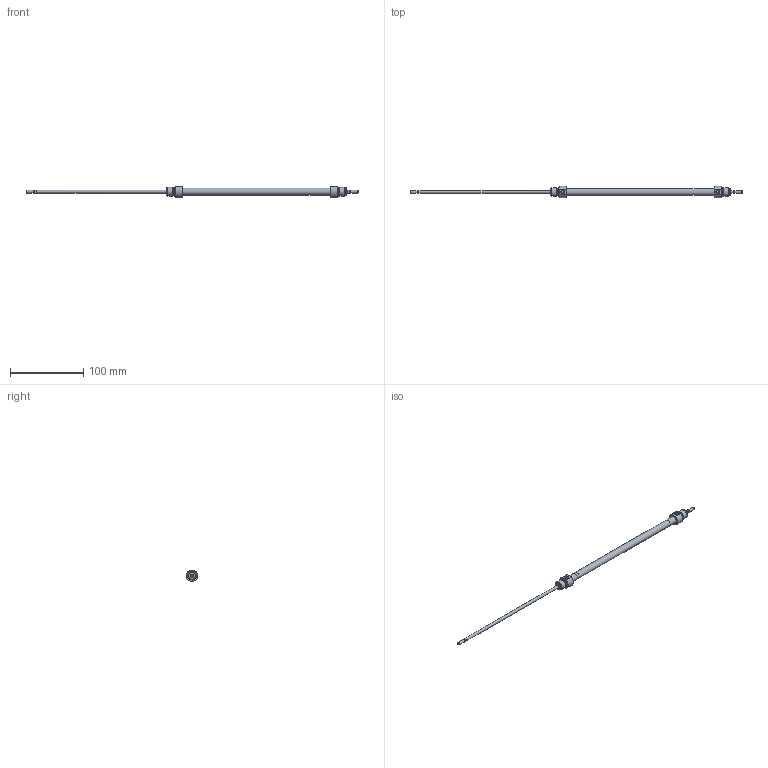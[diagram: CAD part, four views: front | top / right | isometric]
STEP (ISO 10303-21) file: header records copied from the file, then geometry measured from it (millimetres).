
FILE_DESCRIPTION( ( 'STEP AP203' ), '1' );
FILE_NAME( '//expscmdclustefs.cadenas.external/client_exchange/iodir/jobs/output/wkb68263016_no0/STEP/M101-08-0175--__0__2_03.stp', ' ', ( ' ' ), ( ' ' ), 'PSStep 15.0.47', 'PARTsolutions', ' ' );
FILE_SCHEMA( ( 'CONFIG_CONTROL_DESIGN' ) );
Length unit declared in the file: millimetre
Products named in the file (3): M101-08-0175-- [0]; HI_M101-08-0175---[0]-z; HI_M101-08-0175---[0]-k
Assembly tree (2 placements, depth 2):
  M101-08-0175-- [0]
    HI_M101-08-0175---[0]-z
    HI_M101-08-0175---[0]-k
Bounding box: 452 x 15.98 x 14.97 mm (x, y, z)
Volume: 15941 mm3; surface area: 19712 mm2
Topology: 2 solids, 2 shells, 71 faces, 145 edges, 88 vertices
Faces by surface type: plane 32, cylinder 23, cone 14, torus 2
Full cylindrical faces by diameter (mm): 3.141 x2, 4 x6, 4.134 x2, 8 x2, 9.3 x1, 10.466 x4, 12 x4
Entity records: 1838 total; most frequent: CARTESIAN_POINT 358, DIRECTION 312, ORIENTED_EDGE 212, AXIS2_PLACEMENT_3D 140, EDGE_LOOP 120, EDGE_CURVE 106, FACE_OUTER_BOUND 94, VERTEX_POINT 82
